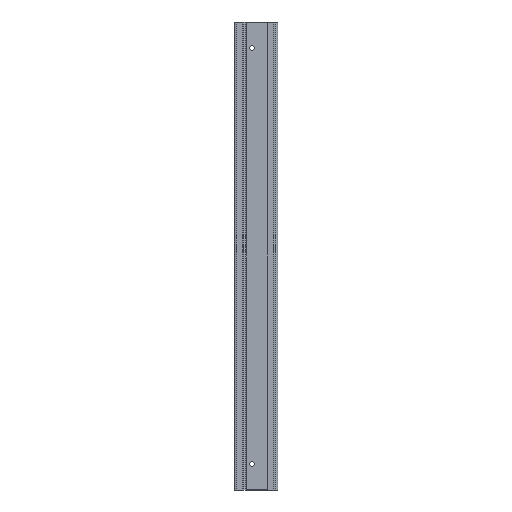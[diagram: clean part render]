
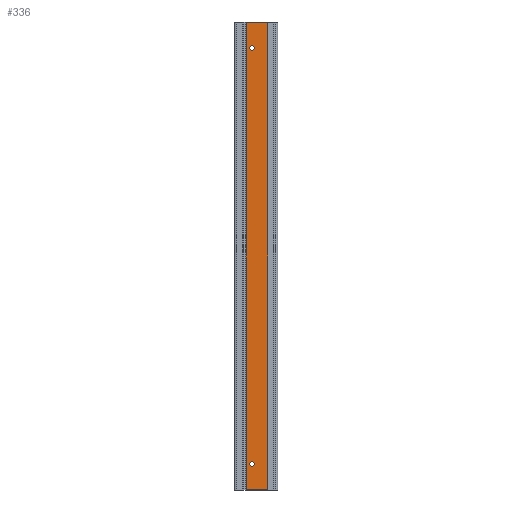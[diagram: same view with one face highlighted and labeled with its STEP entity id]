
A CAD part, left-side view. The second image highlights one B-rep face of the part: STEP entity #336.
In plain terms, the highlighted planar face has unit normal (-1, 0, 0).
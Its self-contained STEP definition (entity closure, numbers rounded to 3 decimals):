
#81 = CARTESIAN_POINT ( 'NONE',  ( -28., 5.8, 134.5 ) ) ;
#250 = ORIENTED_EDGE ( 'NONE', *, *, #2903, .T. ) ;
#336 = ADVANCED_FACE ( 'NONE', ( #15192, #14545, #9033 ), #11524, .T. ) ;
#1074 = EDGE_CURVE ( 'NONE', #17427, #20929, #1565, .T. ) ;
#1081 = DIRECTION ( 'NONE',  ( 0., 0., 1. ) ) ;
#1330 = EDGE_LOOP ( 'NONE', ( #3126, #4621, #250, #25630 ) ) ;
#1423 = AXIS2_PLACEMENT_3D ( 'NONE', #19493, #21417, #1081 ) ;
#1459 = CARTESIAN_POINT ( 'NONE',  ( -28., 18., 135. ) ) ;
#1565 = CIRCLE ( 'NONE', #1423, 1.25 ) ;
#1938 = CARTESIAN_POINT ( 'NONE',  ( -28., 14.8, -118.75 ) ) ;
#2309 = CARTESIAN_POINT ( 'NONE',  ( -28., 5.8, -134.5 ) ) ;
#2417 = CIRCLE ( 'NONE', #12489, 1.25 ) ;
#2573 = AXIS2_PLACEMENT_3D ( 'NONE', #21089, #2591, #19088 ) ;
#2591 = DIRECTION ( 'NONE',  ( -1., 0., 0. ) ) ;
#2856 = LINE ( 'NONE', #16396, #8974 ) ;
#2903 = EDGE_CURVE ( 'NONE', #6909, #8364, #21111, .T. ) ;
#3126 = ORIENTED_EDGE ( 'NONE', *, *, #5081, .F. ) ;
#3730 = DIRECTION ( 'NONE',  ( 0., 0., -1. ) ) ;
#3767 = EDGE_CURVE ( 'NONE', #23676, #6909, #17195, .T. ) ;
#4621 = ORIENTED_EDGE ( 'NONE', *, *, #3767, .T. ) ;
#4758 = CARTESIAN_POINT ( 'NONE',  ( -28., 14.8, -121.25 ) ) ;
#5068 = DIRECTION ( 'NONE',  ( -1., 0., 0. ) ) ;
#5081 = EDGE_CURVE ( 'NONE', #23676, #15072, #2856, .T. ) ;
#5670 = CARTESIAN_POINT ( 'NONE',  ( -28., 14.8, 120. ) ) ;
#6618 = DIRECTION ( 'NONE',  ( 0., 0., 1. ) ) ;
#6909 = VERTEX_POINT ( 'NONE', #18527 ) ;
#8364 = VERTEX_POINT ( 'NONE', #9138 ) ;
#8974 = VECTOR ( 'NONE', #3730, 1000. ) ;
#9033 = FACE_OUTER_BOUND ( 'NONE', #1330, .T. ) ;
#9138 = CARTESIAN_POINT ( 'NONE',  ( -28., 18., -134.5 ) ) ;
#9736 = CARTESIAN_POINT ( 'NONE',  ( -28., 14.8, 118.75 ) ) ;
#10196 = EDGE_CURVE ( 'NONE', #20929, #17427, #2417, .T. ) ;
#11524 = PLANE ( 'NONE',  #24765 ) ;
#11601 = DIRECTION ( 'NONE',  ( 0., 0., -1. ) ) ;
#11699 = VECTOR ( 'NONE', #16658, 1000. ) ;
#12489 = AXIS2_PLACEMENT_3D ( 'NONE', #13061, #17231, #6618 ) ;
#13061 = CARTESIAN_POINT ( 'NONE',  ( -28., 14.8, -120. ) ) ;
#13891 = VERTEX_POINT ( 'NONE', #9736 ) ;
#13919 = VERTEX_POINT ( 'NONE', #18505 ) ;
#14398 = CARTESIAN_POINT ( 'NONE',  ( -28., 0., 134.5 ) ) ;
#14545 = FACE_BOUND ( 'NONE', #20027, .T. ) ;
#15072 = VERTEX_POINT ( 'NONE', #2309 ) ;
#15192 = FACE_BOUND ( 'NONE', #24619, .T. ) ;
#15736 = LINE ( 'NONE', #25326, #18626 ) ;
#15754 = CARTESIAN_POINT ( 'NONE',  ( -28., 0., 135. ) ) ;
#16357 = ORIENTED_EDGE ( 'NONE', *, *, #10196, .F. ) ;
#16396 = CARTESIAN_POINT ( 'NONE',  ( -28., 5.8, 135. ) ) ;
#16658 = DIRECTION ( 'NONE',  ( 0., 1., 0. ) ) ;
#16925 = EDGE_CURVE ( 'NONE', #13891, #13919, #22930, .T. ) ;
#17195 = LINE ( 'NONE', #14398, #11699 ) ;
#17231 = DIRECTION ( 'NONE',  ( -1., 0., 0. ) ) ;
#17427 = VERTEX_POINT ( 'NONE', #1938 ) ;
#18505 = CARTESIAN_POINT ( 'NONE',  ( -28., 14.8, 121.25 ) ) ;
#18527 = CARTESIAN_POINT ( 'NONE',  ( -28., 18., 134.5 ) ) ;
#18626 = VECTOR ( 'NONE', #23340, 1000. ) ;
#19088 = DIRECTION ( 'NONE',  ( 0., 0., 1. ) ) ;
#19493 = CARTESIAN_POINT ( 'NONE',  ( -28., 14.8, -120. ) ) ;
#19671 = EDGE_CURVE ( 'NONE', #8364, #15072, #15736, .T. ) ;
#19983 = EDGE_CURVE ( 'NONE', #13919, #13891, #26044, .T. ) ;
#20027 = EDGE_LOOP ( 'NONE', ( #24215, #16357 ) ) ;
#20929 = VERTEX_POINT ( 'NONE', #4758 ) ;
#21089 = CARTESIAN_POINT ( 'NONE',  ( -28., 14.8, 120. ) ) ;
#21111 = LINE ( 'NONE', #1459, #24667 ) ;
#21417 = DIRECTION ( 'NONE',  ( -1., 0., 0. ) ) ;
#21810 = DIRECTION ( 'NONE',  ( 0., 0., 1. ) ) ;
#21977 = DIRECTION ( 'NONE',  ( -1., 0., 0. ) ) ;
#22930 = CIRCLE ( 'NONE', #2573, 1.25 ) ;
#23340 = DIRECTION ( 'NONE',  ( 0., -1., 0. ) ) ;
#23445 = AXIS2_PLACEMENT_3D ( 'NONE', #5670, #21977, #24233 ) ;
#23676 = VERTEX_POINT ( 'NONE', #81 ) ;
#23691 = ORIENTED_EDGE ( 'NONE', *, *, #16925, .F. ) ;
#24215 = ORIENTED_EDGE ( 'NONE', *, *, #1074, .F. ) ;
#24233 = DIRECTION ( 'NONE',  ( 0., 0., 1. ) ) ;
#24619 = EDGE_LOOP ( 'NONE', ( #25473, #23691 ) ) ;
#24667 = VECTOR ( 'NONE', #11601, 1000. ) ;
#24765 = AXIS2_PLACEMENT_3D ( 'NONE', #15754, #5068, #21810 ) ;
#25326 = CARTESIAN_POINT ( 'NONE',  ( -28., 5.8, -134.5 ) ) ;
#25473 = ORIENTED_EDGE ( 'NONE', *, *, #19983, .F. ) ;
#25630 = ORIENTED_EDGE ( 'NONE', *, *, #19671, .T. ) ;
#26044 = CIRCLE ( 'NONE', #23445, 1.25 ) ;
